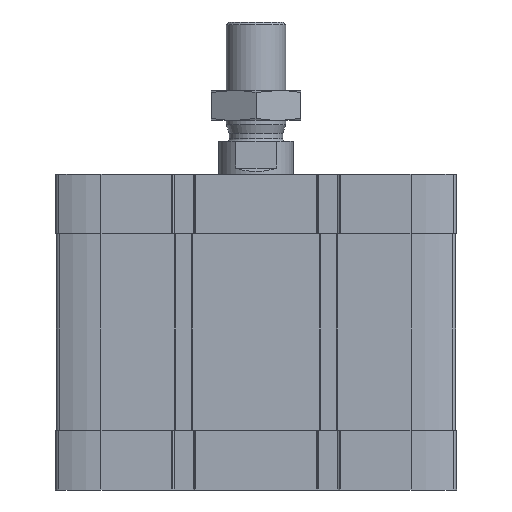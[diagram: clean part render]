
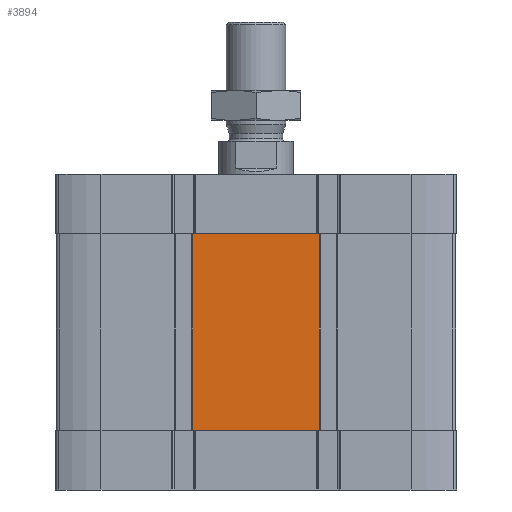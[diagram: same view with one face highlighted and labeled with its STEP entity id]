
A CAD part, front view. The second image highlights one B-rep face of the part: STEP entity #3894.
In plain terms, the highlighted planar face has unit normal (0, -1, 0).
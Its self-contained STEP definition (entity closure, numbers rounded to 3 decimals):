
#307 = AXIS2_PLACEMENT_3D ( 'NONE', #9588, #5451, #2695 ) ;
#316 = LINE ( 'NONE', #6277, #4218 ) ;
#323 = VERTEX_POINT ( 'NONE', #14953 ) ;
#958 = ORIENTED_EDGE ( 'NONE', *, *, #11830, .F. ) ;
#1111 = CARTESIAN_POINT ( 'NONE',  ( -67., -67., -86. ) ) ;
#1338 = CARTESIAN_POINT ( 'NONE',  ( -21.3, -67., -86. ) ) ;
#1705 = DIRECTION ( 'NONE',  ( 1., 0., 0. ) ) ;
#1926 = DIRECTION ( 'NONE',  ( 1., 0., 0. ) ) ;
#2088 = DIRECTION ( 'NONE',  ( 1., 0., 0. ) ) ;
#2695 = DIRECTION ( 'NONE',  ( 0., 0., -1. ) ) ;
#2737 = DIRECTION ( 'NONE',  ( 0., 0., 1. ) ) ;
#2917 = VERTEX_POINT ( 'NONE', #8577 ) ;
#2963 = DIRECTION ( 'NONE',  ( 0., 0., 1. ) ) ;
#2993 = DIRECTION ( 'NONE',  ( 1., 0., 0. ) ) ;
#3284 = EDGE_LOOP ( 'NONE', ( #12902, #7691, #4478, #10838, #5534, #958, #12165, #10239 ) ) ;
#3485 = VERTEX_POINT ( 'NONE', #18137 ) ;
#3894 = ADVANCED_FACE ( 'NONE', ( #5633 ), #18017, .T. ) ;
#4145 = VERTEX_POINT ( 'NONE', #6633 ) ;
#4159 = CARTESIAN_POINT ( 'NONE',  ( -21.3, -67., -20. ) ) ;
#4218 = VECTOR ( 'NONE', #10134, 1000. ) ;
#4348 = LINE ( 'NONE', #9942, #15771 ) ;
#4478 = ORIENTED_EDGE ( 'NONE', *, *, #17001, .T. ) ;
#5147 = DIRECTION ( 'NONE',  ( 1., 0., 0. ) ) ;
#5451 = DIRECTION ( 'NONE',  ( 0., -1., 0. ) ) ;
#5534 = ORIENTED_EDGE ( 'NONE', *, *, #8495, .T. ) ;
#5633 = FACE_OUTER_BOUND ( 'NONE', #3284, .T. ) ;
#6075 = VERTEX_POINT ( 'NONE', #11526 ) ;
#6277 = CARTESIAN_POINT ( 'NONE',  ( -67., -67., -20. ) ) ;
#6387 = CARTESIAN_POINT ( 'NONE',  ( -20.687, -67., -86. ) ) ;
#6633 = CARTESIAN_POINT ( 'NONE',  ( 20.687, -67., -20. ) ) ;
#6793 = EDGE_CURVE ( 'NONE', #3485, #323, #12394, .T. ) ;
#7340 = LINE ( 'NONE', #14305, #9903 ) ;
#7691 = ORIENTED_EDGE ( 'NONE', *, *, #16825, .T. ) ;
#8495 = EDGE_CURVE ( 'NONE', #323, #6075, #12469, .T. ) ;
#8577 = CARTESIAN_POINT ( 'NONE',  ( -20.687, -67., -20. ) ) ;
#9098 = LINE ( 'NONE', #14499, #16918 ) ;
#9223 = CARTESIAN_POINT ( 'NONE',  ( -21.3, -67., -86. ) ) ;
#9588 = CARTESIAN_POINT ( 'NONE',  ( -67., -67., -86. ) ) ;
#9661 = VERTEX_POINT ( 'NONE', #4159 ) ;
#9715 = CARTESIAN_POINT ( 'NONE',  ( 21.3, -67., -86. ) ) ;
#9903 = VECTOR ( 'NONE', #2088, 1000. ) ;
#9942 = CARTESIAN_POINT ( 'NONE',  ( -21.3, -67., -86. ) ) ;
#10134 = DIRECTION ( 'NONE',  ( 1., 0., 0. ) ) ;
#10239 = ORIENTED_EDGE ( 'NONE', *, *, #16026, .F. ) ;
#10838 = ORIENTED_EDGE ( 'NONE', *, *, #6793, .T. ) ;
#11346 = LINE ( 'NONE', #1338, #14016 ) ;
#11526 = CARTESIAN_POINT ( 'NONE',  ( 21.3, -67., -20. ) ) ;
#11830 = EDGE_CURVE ( 'NONE', #4145, #6075, #316, .T. ) ;
#11956 = VECTOR ( 'NONE', #2737, 1000. ) ;
#12165 = ORIENTED_EDGE ( 'NONE', *, *, #14050, .F. ) ;
#12394 = LINE ( 'NONE', #1111, #12823 ) ;
#12469 = LINE ( 'NONE', #9715, #11956 ) ;
#12823 = VECTOR ( 'NONE', #5147, 1000. ) ;
#12902 = ORIENTED_EDGE ( 'NONE', *, *, #16603, .F. ) ;
#14016 = VECTOR ( 'NONE', #2993, 1000. ) ;
#14050 = EDGE_CURVE ( 'NONE', #2917, #4145, #14448, .T. ) ;
#14275 = CARTESIAN_POINT ( 'NONE',  ( -21.3, -67., -20. ) ) ;
#14305 = CARTESIAN_POINT ( 'NONE',  ( -67., -67., -86. ) ) ;
#14448 = LINE ( 'NONE', #14275, #18050 ) ;
#14499 = CARTESIAN_POINT ( 'NONE',  ( -67., -67., -20. ) ) ;
#14953 = CARTESIAN_POINT ( 'NONE',  ( 21.3, -67., -86. ) ) ;
#15218 = VERTEX_POINT ( 'NONE', #9223 ) ;
#15306 = VERTEX_POINT ( 'NONE', #6387 ) ;
#15771 = VECTOR ( 'NONE', #2963, 1000. ) ;
#16026 = EDGE_CURVE ( 'NONE', #9661, #2917, #9098, .T. ) ;
#16603 = EDGE_CURVE ( 'NONE', #15218, #9661, #4348, .T. ) ;
#16825 = EDGE_CURVE ( 'NONE', #15218, #15306, #7340, .T. ) ;
#16918 = VECTOR ( 'NONE', #1926, 1000. ) ;
#17001 = EDGE_CURVE ( 'NONE', #15306, #3485, #11346, .T. ) ;
#18017 = PLANE ( 'NONE',  #307 ) ;
#18050 = VECTOR ( 'NONE', #1705, 1000. ) ;
#18137 = CARTESIAN_POINT ( 'NONE',  ( 20.687, -67., -86. ) ) ;
